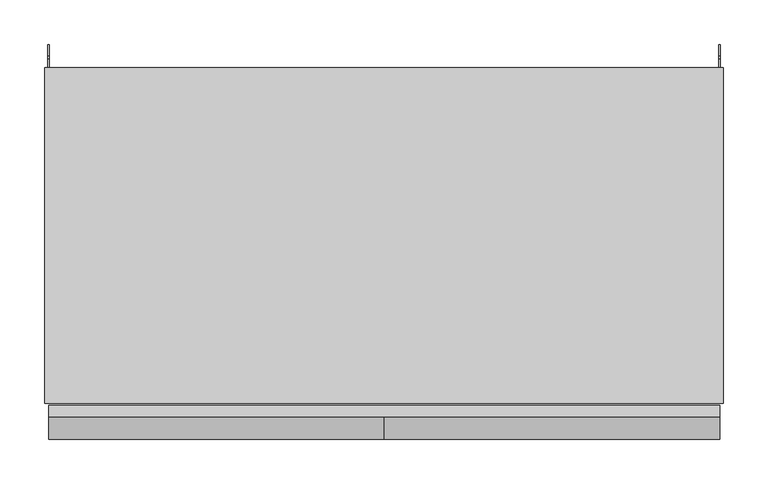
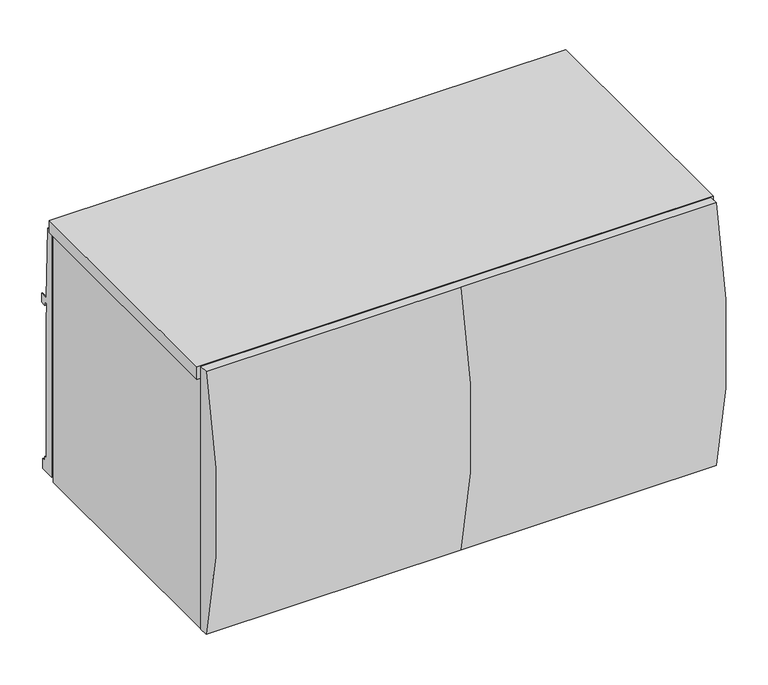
"""IFC4 building model written with IfcOpenShell, lengths in millimetres: furniture geometry, Steelcase - Universal Storage - Over the Case Bin - Radius Front : For Montage - 30W."""

from ifc_helpers import new_model, si_unit, frame, origin, place, context, project, spatial, polyline, circle_curve, outline, extrude, source, transform, mapped, element, save
from ifc_brep_helpers import plane_surface, cylinder_surface, advanced_brep


def furniture_d1d27db6(model_context):
    return source(origin(), model_context, "Body", "SolidModel", [
        advanced_brep(
        [(757.5703, -393.0769518, 1677.2612846), (757.5703, -393.0769518, 1266.8226746), (757.5703, -379.476, 1266.8226746), (757.5703, -379.476, 1677.2612846), (381.0, -393.0769518, 1677.2612846), (381.0, -393.0769518, 1266.8226746), (4.4448587, -393.0769518, 1266.8226746), (4.4448587, -379.476, 1266.8226746), (4.4448587, -379.476, 1677.2612846), (4.4448587, -393.0769518, 1677.2612846)],
        [
            (0, 1, circle_curve(frame((757.5703, 352.6331971, 1472.0419796), z_axis=(1.0, 0.0, 0.0), x_axis=(0.0, 1.0, 0.0)), 773.4329895)),
            (1, 2),
            (2, 3),
            (3, 0),
            (0, 4),
            (4, 5, circle_curve(frame((381.0, 352.6331971, 1472.0419796), z_axis=(1.0, 0.0, 0.0), x_axis=(0.0, 1.0, 0.0)), 773.4329895)),
            (5, 1),
            (5, 6),
            (6, 7),
            (7, 2),
            (7, 8),
            (8, 3),
            (8, 9),
            (9, 4),
            (6, 9, circle_curve(frame((4.4448587, 352.6331971, 1472.0419796), z_axis=(-1.0, 0.0, 0.0), x_axis=(0.0, 1.0, 0.0)), 773.4329895)),
        ],
        [
            plane_surface(frame((757.5703, 1126.0661866, 1472.0419796), z_axis=(1.0, 0.0, 0.0), x_axis=(0.0, 0.0, 1.0))),
            cylinder_surface(frame((381.0, 352.6331971, 1472.0419796), z_axis=(1.0, 0.0, 0.0), x_axis=(0.0, 1.0, 0.0)), 773.4329895),
            plane_surface(frame((757.5703, -393.0769518, 1266.8226746), z_axis=(0.0, 0.0, -1.0), x_axis=(-1.0, 0.0, 0.0))),
            plane_surface(frame((757.5703, -379.476, 1266.8226746), z_axis=(0.0, 1.0, 0.0), x_axis=(-1.0, 0.0, 0.0))),
            plane_surface(frame((757.5703, -379.476, 1677.2612846), z_axis=(0.0, 0.0, 1.0), x_axis=(-1.0, 0.0, 0.0))),
            plane_surface(frame((4.4448587, 1126.0661866, 1472.0419796), z_axis=(-1.0, 0.0, 0.0), x_axis=(0.0, 0.0, -1.0))),
            cylinder_surface(frame((4.4448587, 352.6331971, 1472.0419796), z_axis=(1.0, 0.0, 0.0), x_axis=(0.0, 1.0, 0.0)), 773.4329895),
        ],
        [
            (0, [[1, 2, 3, 4]]),
            (1, [[-1, 5, 6, 7]]),
            (2, [[-2, -7, 8, 9, 10]]),
            (3, [[-3, -10, 11, 12]]),
            (4, [[-4, -12, 13, 14, -5]]),
            (5, [[-13, -11, -9, 15]]),
            (6, [[-15, -8, -6, -14]]),
        ],
    ),
        extrude(outline(polyline([(0.0, 1657.096), (10.1677703, 1657.096), (13.3857995, 1545.8185744), (26.0095997, 1545.8185744), (26.0095997, 1532.1025512), (17.5768, 1532.1025512), (17.5768, 1537.1064608), (13.3349998, 1537.1064608), (13.3349998, 1522.6538546), (14.2747998, 1522.6538546), (14.2747998, 1296.0858527), (17.2466001, 1296.0858527), (17.2466001, 1289.7358043), (22.5806007, 1289.7358043), (22.5806007, 1274.2164027), (0.0, 1274.2164027), (0.0, 1657.096)])), frame((756.4882, 0.0, 0.0), z_axis=(1.0, 0.0, 0.0), x_axis=(0.0, 1.0, 0.0)), (0.0, 0.0, 1.0), 1.905),
        extrude(outline(polyline([(762.0, -377.213238), (0.0, -377.213238), (0.0, 0.0), (762.0, 0.0), (762.0, -377.213238)])), frame((0.0, 0.0, 1657.35), z_axis=(0.0, 0.0, 1.0), x_axis=(1.0, 0.0, 0.0)), (0.0, 0.0, 1.0), 19.05),
        extrude(outline(polyline([(15.875, -377.213238), (5.5118, -377.213238), (5.5118, 0.0), (15.875, 0.0), (15.875, -377.213238)])), frame((0.0, 0.0, 1265.428), z_axis=(0.0, 0.0, 1.0), x_axis=(1.0, 0.0, 0.0)), (0.0, 0.0, 1.0), 391.6679457),
        extrude(outline(polyline([(760.8568665, -377.213238), (746.125, -377.213238), (746.125, 0.0), (760.8568665, 0.0), (760.8568665, -377.213238)])), frame((0.0, 0.0, 1265.428), z_axis=(0.0, 0.0, 1.0), x_axis=(1.0, 0.0, 0.0)), (0.0, 0.0, 1.0), 391.6679457),
        extrude(outline(polyline([(0.0, 1657.096), (10.1677703, 1657.096), (13.3857995, 1545.8185744), (26.0095997, 1545.8185744), (26.0095997, 1532.1025512), (17.5768, 1532.1025512), (17.5768, 1537.1064608), (13.3349998, 1537.1064608), (13.3349998, 1522.6538546), (14.2747998, 1522.6538546), (14.2747998, 1296.0858527), (17.2466001, 1296.0858527), (17.2466001, 1289.7358043), (22.5806007, 1289.7358043), (22.5806007, 1274.2164027), (0.0, 1274.2164027), (0.0, 1657.096)])), frame((3.6068, 0.0, 0.0), z_axis=(1.0, 0.0, 0.0), x_axis=(0.0, 1.0, 0.0)), (0.0, 0.0, 1.0), 1.905),
        extrude(outline(polyline([(-35.4584098, 1372.819257), (-27.0763996, 1372.819257), (-27.0763996, 1360.1191601), (-33.4264117, 1360.1191601), (-33.4264117, 1323.1622589), (-27.0763996, 1323.1622589), (-27.0763996, 1265.428), (-35.4584098, 1265.428), (-35.4584098, 1293.054213), (-46.1263996, 1293.054213), (-46.1263996, 1268.1875622), (-59.9694137, 1268.1875622), (-59.9694137, 1294.8575912), (-332.8542818, 1294.8575912), (-332.8542818, 1268.1875622), (-377.3042823, 1268.1875622), (-377.3042823, 1310.7072052), (-35.4584098, 1310.7072052), (-35.4584098, 1372.819257)])), frame((15.875, 0.0, 0.0), z_axis=(1.0, 0.0, 0.0), x_axis=(0.0, 1.0, 0.0)), (0.0, 0.0, 1.0), 730.25),
    ])


if __name__ == "__main__":
    model = new_model("IFC4")
    model_context = context("Model", 3, world=origin())
    ifc_project = project(units=[si_unit("LENGTHUNIT", "METRE", prefix="MILLI")], contexts=[model_context])
    site = spatial("IfcSite", under=ifc_project)
    building = spatial("IfcBuilding", under=site)
    placement = place(None, origin())
    furniture_shape = furniture_d1d27db6(model_context)
    element("IfcFurniture", 1, ObjectType="Steelcase - Universal Storage - Over the Case Bin - Radius Front : For Montage - 30W", at=placement, inside=building, context=model_context, shape_type="MappedRepresentation", body=[
        mapped(furniture_shape, transform((0.0, 0.0, 0.0), x_axis=(1.0, 0.0, 0.0), y_axis=(0.0, 1.0, 0.0), z_axis=(0.0, 0.0, 1.0))),
    ])
    save(model, "model.ifc")
